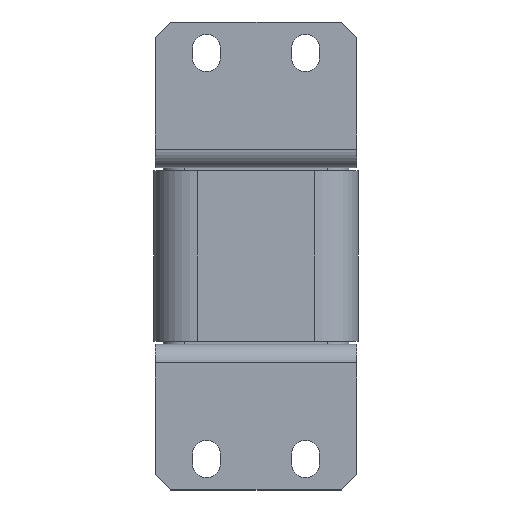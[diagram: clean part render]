
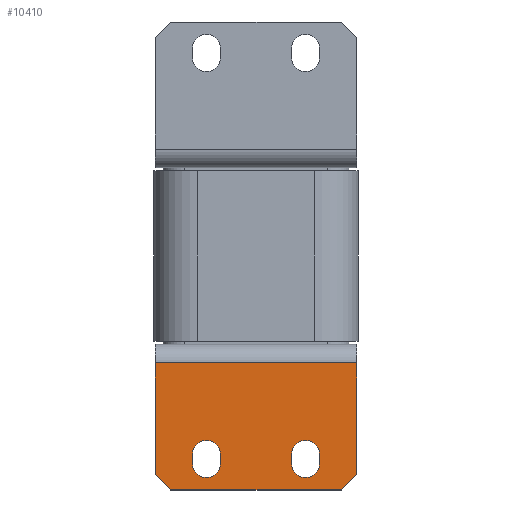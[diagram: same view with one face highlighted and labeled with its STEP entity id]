
A CAD part, front view. The second image highlights one B-rep face of the part: STEP entity #10410.
In plain terms, the highlighted planar face has unit normal (0, -1, 0).
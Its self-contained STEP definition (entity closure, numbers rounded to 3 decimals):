
#38 = VERTEX_POINT ( 'NONE', #986 ) ;
#142 = CARTESIAN_POINT ( 'NONE',  ( -41.368, -16.503, -91.5 ) ) ;
#160 = VERTEX_POINT ( 'NONE', #7281 ) ;
#215 = VECTOR ( 'NONE', #12053, 1000. ) ;
#226 = ORIENTED_EDGE ( 'NONE', *, *, #7778, .F. ) ;
#256 = CARTESIAN_POINT ( 'NONE',  ( -45.868, -16.503, -94.5 ) ) ;
#510 = VECTOR ( 'NONE', #4321, 1000. ) ;
#610 = VERTEX_POINT ( 'NONE', #2164 ) ;
#660 = AXIS2_PLACEMENT_3D ( 'NONE', #15183, #3252, #3294 ) ;
#715 = EDGE_LOOP ( 'NONE', ( #8918, #13215, #13452, #13686, #226 ) ) ;
#905 = CARTESIAN_POINT ( 'NONE',  ( -18.368, -16.503, -91.5 ) ) ;
#986 = CARTESIAN_POINT ( 'NONE',  ( -50.368, -16.503, -91.5 ) ) ;
#1118 = LINE ( 'NONE', #4972, #215 ) ;
#1139 = DIRECTION ( 'NONE',  ( 0.707, 0., -0.707 ) ) ;
#1302 = CARTESIAN_POINT ( 'NONE',  ( -18.368, -16.503, -94.5 ) ) ;
#1408 = CARTESIAN_POINT ( 'NONE',  ( -2.368, -16.503, -103. ) ) ;
#1567 = AXIS2_PLACEMENT_3D ( 'NONE', #9519, #14321, #10738 ) ;
#1606 = AXIS2_PLACEMENT_3D ( 'NONE', #256, #3729, #4948 ) ;
#1659 = VERTEX_POINT ( 'NONE', #14398 ) ;
#1833 = DIRECTION ( 'NONE',  ( 0., 0., 1. ) ) ;
#1846 = DIRECTION ( 'NONE',  ( 0., 0., -1. ) ) ;
#2164 = CARTESIAN_POINT ( 'NONE',  ( -45.868, -16.503, -99. ) ) ;
#2552 = LINE ( 'NONE', #6617, #510 ) ;
#2558 = CARTESIAN_POINT ( 'NONE',  ( -41.368, -16.503, -94.5 ) ) ;
#2761 = DIRECTION ( 'NONE',  ( 0., 0., -1. ) ) ;
#2790 = CARTESIAN_POINT ( 'NONE',  ( -50.368, -16.503, -94.5 ) ) ;
#2793 = CARTESIAN_POINT ( 'NONE',  ( -62.368, -16.503, -62. ) ) ;
#2811 = DIRECTION ( 'NONE',  ( 1., 0., 0. ) ) ;
#2815 = CARTESIAN_POINT ( 'NONE',  ( -13.868, -16.503, -91.5 ) ) ;
#2818 = CIRCLE ( 'NONE', #13994, 4.5 ) ;
#2977 = CARTESIAN_POINT ( 'NONE',  ( -45.868, -16.503, -94.5 ) ) ;
#3018 = LINE ( 'NONE', #8744, #12906 ) ;
#3028 = DIRECTION ( 'NONE',  ( 0., 0., -1. ) ) ;
#3165 = VERTEX_POINT ( 'NONE', #7373 ) ;
#3252 = DIRECTION ( 'NONE',  ( 0., 1., 0. ) ) ;
#3259 = EDGE_CURVE ( 'NONE', #14227, #13621, #10012, .T. ) ;
#3294 = DIRECTION ( 'NONE',  ( 0., 0., -1. ) ) ;
#3497 = CIRCLE ( 'NONE', #1606, 4.5 ) ;
#3729 = DIRECTION ( 'NONE',  ( 0., -1., 0. ) ) ;
#3888 = VERTEX_POINT ( 'NONE', #5366 ) ;
#3892 = AXIS2_PLACEMENT_3D ( 'NONE', #2977, #14897, #8952 ) ;
#4069 = DIRECTION ( 'NONE',  ( 0., 0., 1. ) ) ;
#4160 = VERTEX_POINT ( 'NONE', #6326 ) ;
#4321 = DIRECTION ( 'NONE',  ( 0., 0., 1. ) ) ;
#4758 = EDGE_CURVE ( 'NONE', #3888, #14227, #1118, .T. ) ;
#4948 = DIRECTION ( 'NONE',  ( 0., 0., 1. ) ) ;
#4972 = CARTESIAN_POINT ( 'NONE',  ( -2.368, -16.503, -103. ) ) ;
#5324 = CIRCLE ( 'NONE', #1567, 4.5 ) ;
#5366 = CARTESIAN_POINT ( 'NONE',  ( -57.368, -16.503, -103. ) ) ;
#5372 = VECTOR ( 'NONE', #9811, 1000. ) ;
#5600 = EDGE_LOOP ( 'NONE', ( #13495, #12346, #12877, #10806, #13657 ) ) ;
#5706 = EDGE_CURVE ( 'NONE', #10117, #610, #11748, .T. ) ;
#6024 = EDGE_CURVE ( 'NONE', #1659, #3888, #6309, .T. ) ;
#6082 = LINE ( 'NONE', #14793, #8090 ) ;
#6097 = CIRCLE ( 'NONE', #13033, 4.5 ) ;
#6194 = ORIENTED_EDGE ( 'NONE', *, *, #6024, .T. ) ;
#6233 = CARTESIAN_POINT ( 'NONE',  ( -62.368, -16.503, -98. ) ) ;
#6269 = VECTOR ( 'NONE', #9748, 1000. ) ;
#6309 = LINE ( 'NONE', #15350, #13427 ) ;
#6326 = CARTESIAN_POINT ( 'NONE',  ( -9.368, -16.503, -94.5 ) ) ;
#6358 = CARTESIAN_POINT ( 'NONE',  ( -62.368, -16.503, -62. ) ) ;
#6440 = ORIENTED_EDGE ( 'NONE', *, *, #10666, .T. ) ;
#6617 = CARTESIAN_POINT ( 'NONE',  ( -9.368, -16.503, -94.5 ) ) ;
#6835 = CARTESIAN_POINT ( 'NONE',  ( 2.632, -16.503, -98. ) ) ;
#6955 = LINE ( 'NONE', #6358, #9741 ) ;
#7140 = AXIS2_PLACEMENT_3D ( 'NONE', #12678, #7754, #1846 ) ;
#7281 = CARTESIAN_POINT ( 'NONE',  ( -13.868, -16.503, -99. ) ) ;
#7373 = CARTESIAN_POINT ( 'NONE',  ( 2.632, -16.503, -62. ) ) ;
#7617 = EDGE_LOOP ( 'NONE', ( #12916, #6440, #6194, #8554, #14026, #7819 ) ) ;
#7754 = DIRECTION ( 'NONE',  ( 0., -1., 0. ) ) ;
#7778 = EDGE_CURVE ( 'NONE', #160, #4160, #11889, .T. ) ;
#7819 = ORIENTED_EDGE ( 'NONE', *, *, #15478, .T. ) ;
#7884 = VERTEX_POINT ( 'NONE', #1302 ) ;
#7920 = LINE ( 'NONE', #6233, #6269 ) ;
#8064 = EDGE_CURVE ( 'NONE', #11199, #11461, #6097, .T. ) ;
#8070 = VECTOR ( 'NONE', #13350, 1000. ) ;
#8090 = VECTOR ( 'NONE', #4069, 1000. ) ;
#8307 = CARTESIAN_POINT ( 'NONE',  ( -9.368, -16.503, -91.5 ) ) ;
#8365 = CARTESIAN_POINT ( 'NONE',  ( -13.868, -16.503, -94.5 ) ) ;
#8515 = VERTEX_POINT ( 'NONE', #142 ) ;
#8554 = ORIENTED_EDGE ( 'NONE', *, *, #4758, .T. ) ;
#8659 = EDGE_CURVE ( 'NONE', #38, #10117, #10922, .T. ) ;
#8725 = VECTOR ( 'NONE', #1833, 1000. ) ;
#8733 = VERTEX_POINT ( 'NONE', #2558 ) ;
#8744 = CARTESIAN_POINT ( 'NONE',  ( -18.368, -16.503, -94.5 ) ) ;
#8793 = CARTESIAN_POINT ( 'NONE',  ( -41.368, -16.503, -94.5 ) ) ;
#8918 = ORIENTED_EDGE ( 'NONE', *, *, #9479, .F. ) ;
#8952 = DIRECTION ( 'NONE',  ( 0., 0., 1. ) ) ;
#9234 = EDGE_CURVE ( 'NONE', #11461, #7884, #3018, .T. ) ;
#9479 = EDGE_CURVE ( 'NONE', #7884, #160, #2818, .T. ) ;
#9519 = CARTESIAN_POINT ( 'NONE',  ( -45.868, -16.503, -91.5 ) ) ;
#9741 = VECTOR ( 'NONE', #2811, 1000. ) ;
#9748 = DIRECTION ( 'NONE',  ( 0., 0., -1. ) ) ;
#9749 = EDGE_CURVE ( 'NONE', #8733, #8515, #12512, .T. ) ;
#9811 = DIRECTION ( 'NONE',  ( 0.707, 0., 0.707 ) ) ;
#10012 = LINE ( 'NONE', #1408, #5372 ) ;
#10117 = VERTEX_POINT ( 'NONE', #10723 ) ;
#10410 = ADVANCED_FACE ( 'NONE', ( #11501, #12974, #11128 ), #15071, .F. ) ;
#10666 = EDGE_CURVE ( 'NONE', #14401, #1659, #7920, .T. ) ;
#10697 = DIRECTION ( 'NONE',  ( 0., -1., 0. ) ) ;
#10723 = CARTESIAN_POINT ( 'NONE',  ( -50.368, -16.503, -94.5 ) ) ;
#10738 = DIRECTION ( 'NONE',  ( 0., 0., 1. ) ) ;
#10806 = ORIENTED_EDGE ( 'NONE', *, *, #9749, .F. ) ;
#10922 = LINE ( 'NONE', #2790, #8070 ) ;
#11128 = FACE_OUTER_BOUND ( 'NONE', #7617, .T. ) ;
#11134 = EDGE_CURVE ( 'NONE', #8515, #38, #5324, .T. ) ;
#11199 = VERTEX_POINT ( 'NONE', #8307 ) ;
#11374 = EDGE_CURVE ( 'NONE', #14401, #3165, #6955, .T. ) ;
#11461 = VERTEX_POINT ( 'NONE', #905 ) ;
#11501 = FACE_BOUND ( 'NONE', #715, .T. ) ;
#11748 = CIRCLE ( 'NONE', #3892, 4.5 ) ;
#11889 = CIRCLE ( 'NONE', #7140, 4.5 ) ;
#12053 = DIRECTION ( 'NONE',  ( 1., 0., 0. ) ) ;
#12346 = ORIENTED_EDGE ( 'NONE', *, *, #8659, .F. ) ;
#12377 = DIRECTION ( 'NONE',  ( 0., -1., 0. ) ) ;
#12512 = LINE ( 'NONE', #8793, #8725 ) ;
#12678 = CARTESIAN_POINT ( 'NONE',  ( -13.868, -16.503, -94.5 ) ) ;
#12855 = EDGE_CURVE ( 'NONE', #4160, #11199, #2552, .T. ) ;
#12877 = ORIENTED_EDGE ( 'NONE', *, *, #11134, .F. ) ;
#12906 = VECTOR ( 'NONE', #2761, 1000. ) ;
#12916 = ORIENTED_EDGE ( 'NONE', *, *, #11374, .F. ) ;
#12974 = FACE_BOUND ( 'NONE', #5600, .T. ) ;
#13033 = AXIS2_PLACEMENT_3D ( 'NONE', #2815, #12377, #3028 ) ;
#13215 = ORIENTED_EDGE ( 'NONE', *, *, #9234, .F. ) ;
#13302 = EDGE_CURVE ( 'NONE', #610, #8733, #3497, .T. ) ;
#13350 = DIRECTION ( 'NONE',  ( 0., 0., -1. ) ) ;
#13427 = VECTOR ( 'NONE', #1139, 1000. ) ;
#13452 = ORIENTED_EDGE ( 'NONE', *, *, #8064, .F. ) ;
#13495 = ORIENTED_EDGE ( 'NONE', *, *, #5706, .F. ) ;
#13621 = VERTEX_POINT ( 'NONE', #6835 ) ;
#13657 = ORIENTED_EDGE ( 'NONE', *, *, #13302, .F. ) ;
#13686 = ORIENTED_EDGE ( 'NONE', *, *, #12855, .F. ) ;
#13994 = AXIS2_PLACEMENT_3D ( 'NONE', #8365, #10697, #14323 ) ;
#14026 = ORIENTED_EDGE ( 'NONE', *, *, #3259, .T. ) ;
#14143 = CARTESIAN_POINT ( 'NONE',  ( -2.368, -16.503, -103. ) ) ;
#14227 = VERTEX_POINT ( 'NONE', #14143 ) ;
#14321 = DIRECTION ( 'NONE',  ( 0., -1., 0. ) ) ;
#14323 = DIRECTION ( 'NONE',  ( 0., 0., -1. ) ) ;
#14398 = CARTESIAN_POINT ( 'NONE',  ( -62.368, -16.503, -98. ) ) ;
#14401 = VERTEX_POINT ( 'NONE', #2793 ) ;
#14793 = CARTESIAN_POINT ( 'NONE',  ( 2.632, -16.503, -59. ) ) ;
#14897 = DIRECTION ( 'NONE',  ( 0., -1., 0. ) ) ;
#15071 = PLANE ( 'NONE',  #660 ) ;
#15183 = CARTESIAN_POINT ( 'NONE',  ( -62.368, -16.503, -59. ) ) ;
#15350 = CARTESIAN_POINT ( 'NONE',  ( -57.368, -16.503, -103. ) ) ;
#15478 = EDGE_CURVE ( 'NONE', #13621, #3165, #6082, .T. ) ;
